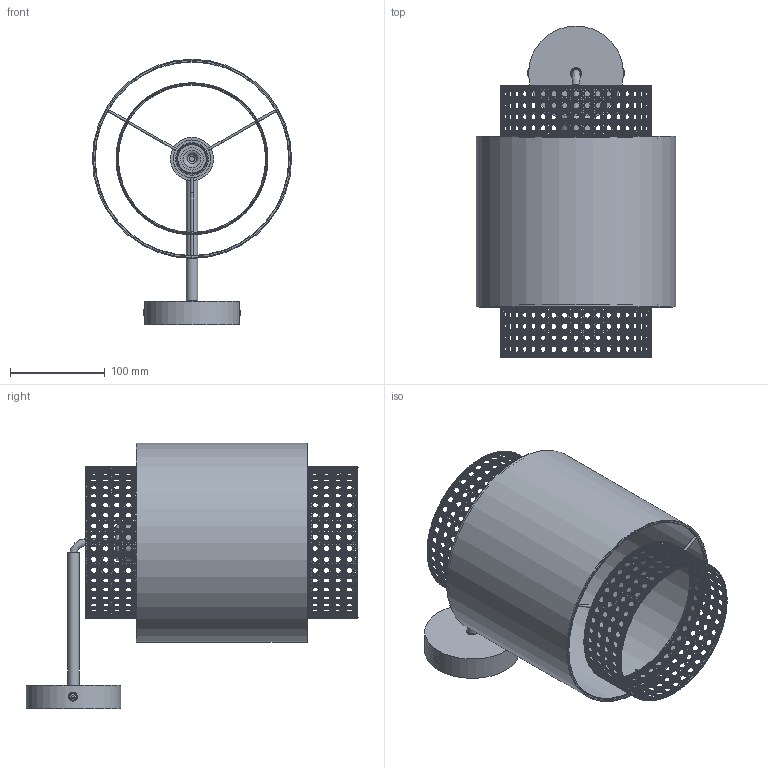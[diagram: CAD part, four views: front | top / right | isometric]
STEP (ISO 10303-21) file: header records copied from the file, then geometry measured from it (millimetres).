
FILE_DESCRIPTION(/* description */ (''),/* implementation_level */ '2;1');
FILE_NAME(/* name */ 'C:/Users/kubaw/OneDrive/Pulpit/Nowy folder (3)/6550_BOHO v4.step',/* time_stamp */ '2021-12-11T10:38:57+01:00',/* author */ (''),/* organization */ (''),/* preprocessor_version */ 'ST-DEVELOPER v18.1',/* originating_system */ 'Autodesk Translation Framework v10.10.0.1391',/* authorisation */ '');
FILE_SCHEMA (('AUTOMOTIVE_DESIGN { 1 0 10303 214 3 1 1 }'));
Length unit declared in the file: millimetre
Products named in the file (4): 6550_BOHO; KLOSZ_200_BOHO; MOCOWANIE_BOHO; ŚRUBA_B
Assembly tree (4 placements, depth 2):
  6550_BOHO
    KLOSZ_200_BOHO
    MOCOWANIE_BOHO
    ŚRUBA_B  x2
Bounding box: 210 x 350 x 280 mm (x, y, z)
Volume: 424726.5 mm3; surface area: 482206.8 mm2
Topology: 385 solids, 385 shells, 3691 faces, 8751 edges, 5834 vertices
Faces by surface type: cylinder 1445, plane 1131, bspline 1021, torus 94
Full cylindrical faces by diameter (mm): 2.4 x9, 9.216 x1, 9.6 x2, 10 x1, 12 x1, 23.808 x1, 29.915 x10, 32.256 x1, 34.56 x3, 38.4 x1, 39.6 x1, 39.744 x1, 45.6 x1, 100 x1, 155.182 x4, 158.382 x4, 158.4 x20, 160 x20, 204 x2, 208 x3, 210 x1
Entity records: 251415 total; most frequent: CARTESIAN_POINT 172587, ORIENTED_EDGE 17394, DIRECTION 14062, EDGE_CURVE 8697, VERTEX_POINT 5798, AXIS2_PLACEMENT_3D 5797, EDGE_LOOP 3733, FACE_OUTER_BOUND 3669
